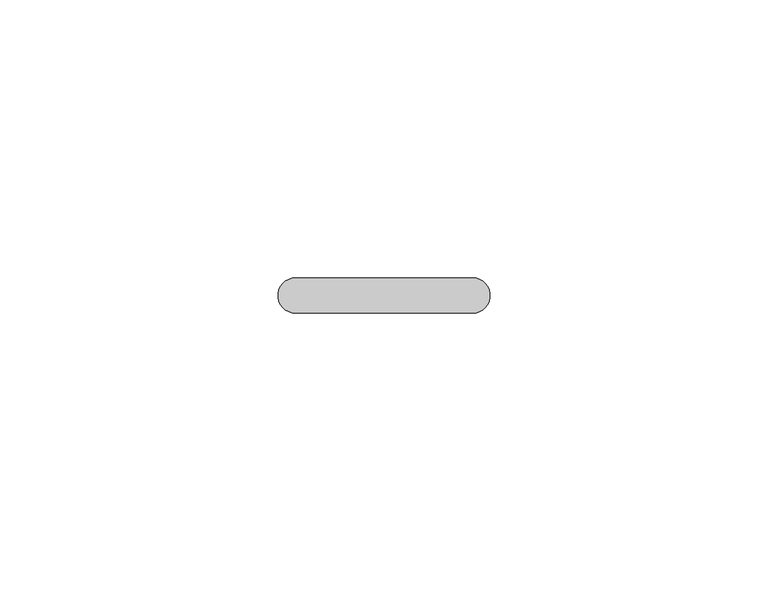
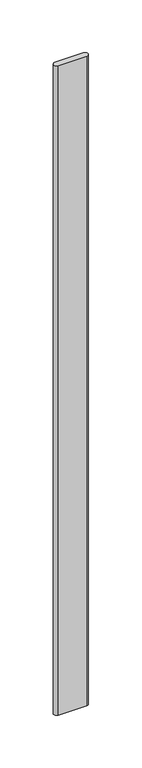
"""IFC4 building model written with IfcOpenShell, lengths in millimetres: proxy geometry, Durabond Generic Model Insulation Adhesive Flat : Durabond Generic Model Insulation Adhesive Flat."""

from ifc_helpers import new_model, si_unit, point, frame_2d, origin, origin_with_axes, place, context, project, spatial, polyline, circle_curve, trimmed, segment, composite_curve, outline, extrude, source, transform, mapped, element, save


def generic_models_bb7dc723(model_context):
    return source(origin(), model_context, "Body", "SweptSolid", [
        extrude(outline(composite_curve([segment(polyline([(15.875, -3.175), (-15.875, -3.175)]), True, "CONTINUOUS"), segment(trimmed(circle_curve(frame_2d((-15.875, 0.0)), 3.175), [point((-15.875, -3.175))], [point((-15.875, 3.175))], False, "CARTESIAN"), True, "CONTINUOUS"), segment(polyline([(-15.875, 3.175), (15.875, 3.175)]), True, "CONTINUOUS"), segment(trimmed(circle_curve(frame_2d((15.875, 0.0)), 3.175), [point((15.875, 3.175))], [point((15.875, -3.175))], False, "CARTESIAN"), True, "CONTINUOUS")], self_intersect=False)), origin_with_axes(), (0.0, 0.0, 1.0), 762.0),
    ])


if __name__ == "__main__":
    model = new_model("IFC4")
    model_context = context("Model", 3, world=origin())
    ifc_project = project(units=[si_unit("LENGTHUNIT", "METRE", prefix="MILLI")], contexts=[model_context])
    site = spatial("IfcSite", under=ifc_project)
    building = spatial("IfcBuilding", under=site)
    placement = place(None, origin())
    generic_models_shape = generic_models_bb7dc723(model_context)
    element("IfcBuildingElementProxy", 1, Name="Durabond Generic Model Insulation Adhesive Flat : Durabond Generic Model Insulation Adhesive Flat", ObjectType="Durabond Generic Model Insulation Adhesive Flat : Durabond Generic Model Insulation Adhesive Flat", at=placement, inside=building, context=model_context, shape_type="MappedRepresentation", body=[
        mapped(generic_models_shape, transform((0.0, 0.0, 0.0), x_axis=(1.0, 0.0, 0.0), y_axis=(0.0, 1.0, 0.0), z_axis=(0.0, 0.0, 1.0))),
    ])
    save(model, "model.ifc")
